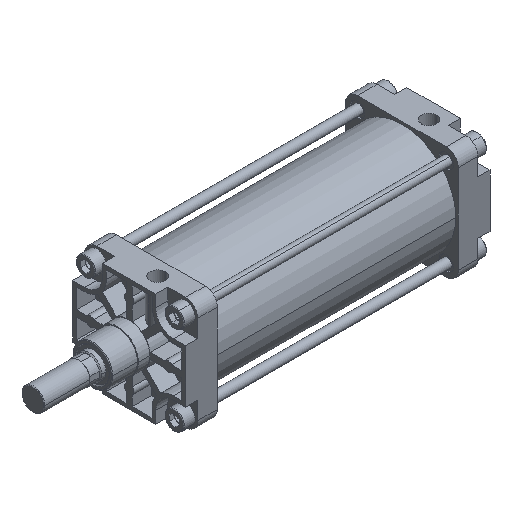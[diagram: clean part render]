
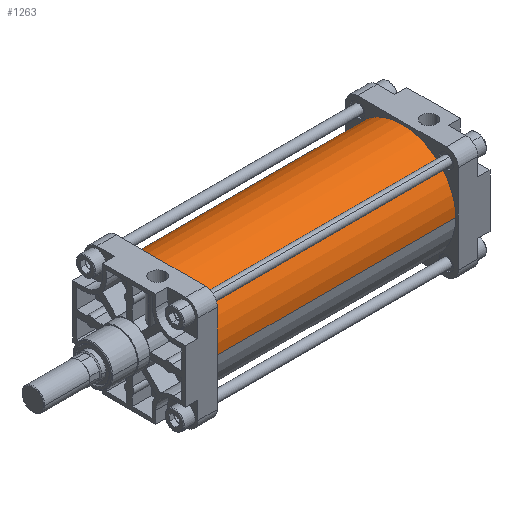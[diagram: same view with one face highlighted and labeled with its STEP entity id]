
A CAD part, isometric view. The second image highlights one B-rep face of the part: STEP entity #1263.
In plain terms, the highlighted cylindrical face has radius 85 mm (diameter 170 mm), a partial arc.
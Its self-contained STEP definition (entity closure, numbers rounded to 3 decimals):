
#853=CARTESIAN_POINT('Axis2P3D Location',(0.,0.,0.)) ;
#857=CARTESIAN_POINT('Vertex',(0.,85.,0.)) ;
#859=CARTESIAN_POINT('Vertex',(0.,-85.,0.)) ;
#1233=CARTESIAN_POINT('Axis2P3D Location',(190.,0.,0.)) ;
#1238=CARTESIAN_POINT('Line Origine',(190.,85.,0.)) ;
#1242=CARTESIAN_POINT('Vertex',(380.,85.,0.)) ;
#1245=CARTESIAN_POINT('Line Origine',(190.,-85.,0.)) ;
#1249=CARTESIAN_POINT('Vertex',(380.,-85.,0.)) ;
#1252=CARTESIAN_POINT('Axis2P3D Location',(380.,0.,0.)) ;
#854=DIRECTION('Axis2P3D Direction',(1.,0.,0.)) ;
#1234=DIRECTION('Axis2P3D Direction',(1.,0.,0.)) ;
#1235=DIRECTION('Axis2P3D XDirection',(0.,1.,0.)) ;
#1239=DIRECTION('Vector Direction',(1.,0.,0.)) ;
#1246=DIRECTION('Vector Direction',(1.,0.,0.)) ;
#1253=DIRECTION('Axis2P3D Direction',(1.,0.,0.)) ;
#855=AXIS2_PLACEMENT_3D('Circle Axis2P3D',#853,#854,$) ;
#1236=AXIS2_PLACEMENT_3D('Cylinder Axis2P3D',#1233,#1234,#1235) ;
#1254=AXIS2_PLACEMENT_3D('Circle Axis2P3D',#1252,#1253,$) ;
#1258=ORIENTED_EDGE('',*,*,#1244,.F.) ;
#1259=ORIENTED_EDGE('',*,*,#861,.T.) ;
#1260=ORIENTED_EDGE('',*,*,#1251,.T.) ;
#1261=ORIENTED_EDGE('',*,*,#1256,.F.) ;
#1240=VECTOR('Line Direction',#1239,1.) ;
#1247=VECTOR('Line Direction',#1246,1.) ;
#1263=ADVANCED_FACE('PartBody',(#1262),#1237,.T.) ;
#856=CIRCLE('generated circle',#855,85.) ;
#1255=CIRCLE('generated circle',#1254,85.) ;
#1237=CYLINDRICAL_SURFACE('generated cylinder',#1236,85.) ;
#861=EDGE_CURVE('',#858,#860,#856,.T.) ;
#1244=EDGE_CURVE('',#858,#1243,#1241,.T.) ;
#1251=EDGE_CURVE('',#860,#1250,#1248,.T.) ;
#1256=EDGE_CURVE('',#1243,#1250,#1255,.T.) ;
#1257=EDGE_LOOP('',(#1258,#1259,#1260,#1261)) ;
#1262=FACE_OUTER_BOUND('',#1257,.T.) ;
#1241=LINE('Line',#1238,#1240) ;
#1248=LINE('Line',#1245,#1247) ;
#858=VERTEX_POINT('',#857) ;
#860=VERTEX_POINT('',#859) ;
#1243=VERTEX_POINT('',#1242) ;
#1250=VERTEX_POINT('',#1249) ;
